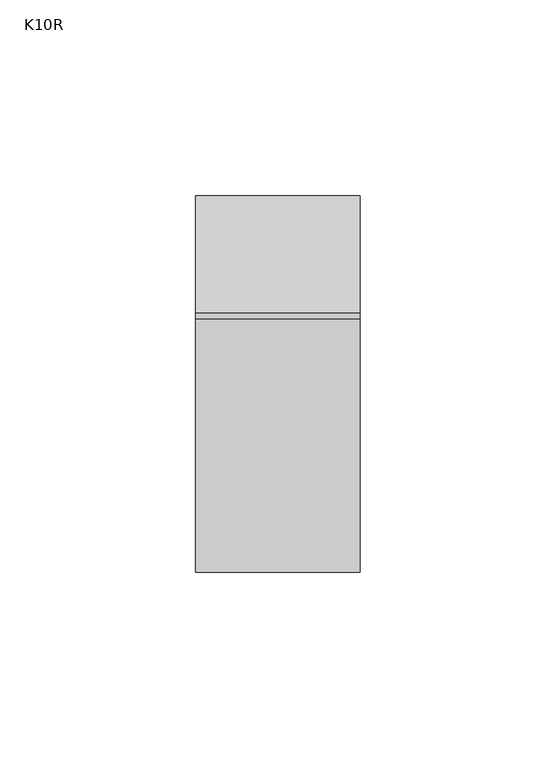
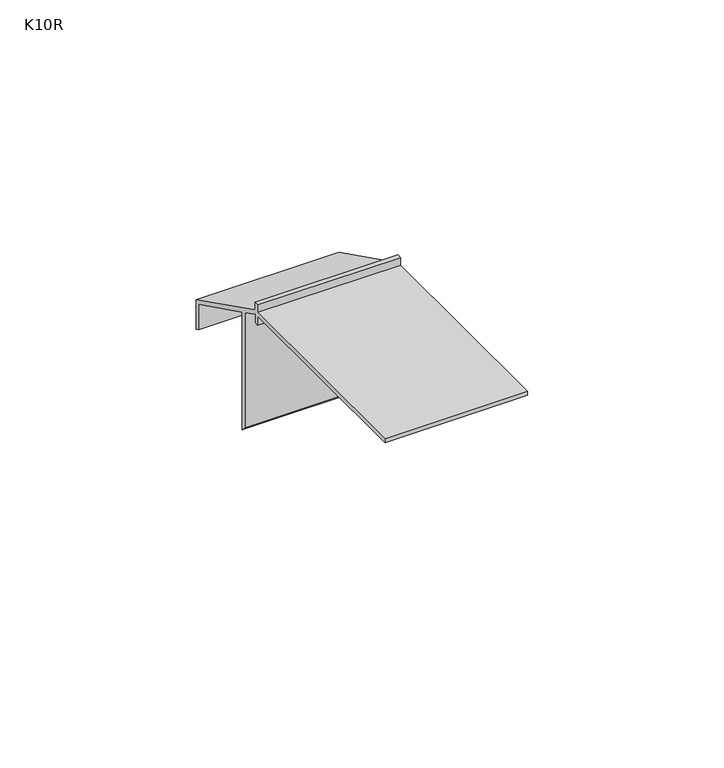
"""IFC4 building model written with IfcOpenShell, lengths in millimetres: proxy geometry, K10R Profil okapowy prosty z rynną : K10R."""

from ifc_helpers import new_model, si_unit, frame, origin, place, context, project, spatial, polyline, outline, extrude, source, transform, mapped, element, save


def k10r_7b48664a(model_context):
    return source(origin(), model_context, "Body", "SweptSolid", [
        extrude(outline(polyline([(31.2999993, -17.3500005), (31.2999993, -26.6), (30.0499993, -25.9199265), (30.0499993, -18.1225422), (7.9999999, -7.0975422), (7.9999999, -43.6535517), (6.5000001, -42.1535547), (6.5000001, -6.3475423), (1.1999998, -3.697542), (1.1999998, -6.2999991), (0.0, -6.2999991), (0.0, -3.6), (-64.7000037, -3.6), (-64.7000037, -2.3499993), (0.0, -2.3499993), (0.0, 0.0), (1.2999997, 0.0), (1.2999997, -2.3500002), (31.2999993, -17.3500005)])), frame((0.0, 0.0, 0.0), z_axis=(1.0, 0.0, 0.0), x_axis=(0.0, 1.0, 0.0)), (0.0, 0.0, 1.0), 41.9774741),
    ])


if __name__ == "__main__":
    model = new_model("IFC4")
    model_context = context("Model", 3, world=origin())
    ifc_project = project(units=[si_unit("LENGTHUNIT", "METRE", prefix="MILLI")], contexts=[model_context])
    site = spatial("IfcSite", under=ifc_project)
    building = spatial("IfcBuilding", under=site)
    placement = place(None, origin())
    k10r_shape = k10r_7b48664a(model_context)
    element("IfcBuildingElementProxy", 1, Name="K10R Profil okapowy prosty z rynną : K10R", ObjectType="K10R Profil okapowy prosty z rynną : K10R", at=placement, inside=building, context=model_context, shape_type="MappedRepresentation", body=[
        mapped(k10r_shape, transform((0.0, 0.0, 0.0), x_axis=(1.0, 0.0, 0.0), y_axis=(0.0, 1.0, 0.0), z_axis=(0.0, 0.0, 1.0))),
    ])
    save(model, "model.ifc")
